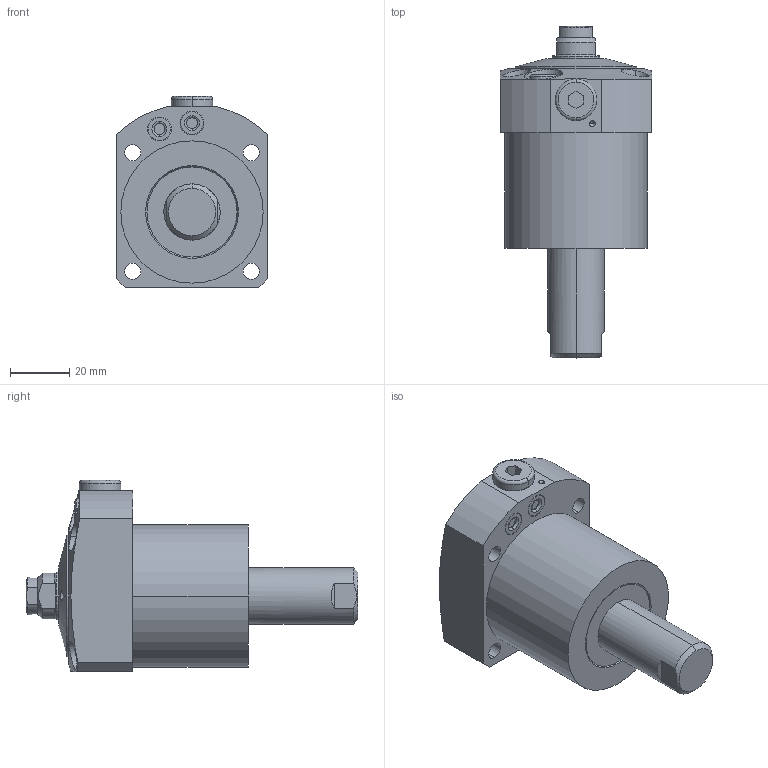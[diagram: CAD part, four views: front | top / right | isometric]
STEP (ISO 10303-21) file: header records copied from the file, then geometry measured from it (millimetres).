
FILE_DESCRIPTION(/* description */ (''),/* implementation_level */ '2;1');
FILE_NAME(/* name */ 'KFSC48-Q.stp',/* time_stamp */ '2023-01-10T13:08:26+08:00',/* author */ (''),/* organization */ (''),/* preprocessor_version */ 'ST-DEVELOPER v16.7',/* originating_system */ 'SIEMENS PLM Software NX 12.0',/* authorisation */ '');
FILE_SCHEMA (('AP203_CONFIGURATION_CONTROLLED_3D_DESIGN_OF_MECHANICAL_PARTS_AND_ASSEMBLIES_MIM_LF { 1 0 10303 403 2 1 2}'));
Length unit declared in the file: millimetre
Products named in the file (8): KFSC48-Q-3; KFSC48-Q-7; KFSC48-Q-6; KFSC48-Q-5; KFSC48-Q-1; KFSC48-Q-4; KFSC48-Q-2; LC0482-C-Q_step
Assembly tree (8 placements, depth 2):
  LC0482-C-Q_step
    KFSC48-Q-2
    KFSC48-Q-4
    KFSC48-Q-1
    KFSC48-Q-5
    KFSC48-Q-6
    KFSC48-Q-7  x2
    KFSC48-Q-3
Bounding box: 51 x 112 x 64.5 mm (x, y, z)
Volume: 143353.5 mm3; surface area: 26338.3 mm2
Topology: 8 solids, 8 shells, 218 faces, 481 edges, 298 vertices
Faces by surface type: cylinder 81, plane 67, cone 40, torus 28, sphere 2
Entity records: 6856 total; most frequent: CARTESIAN_POINT 1225, DIRECTION 1072, ORIENTED_EDGE 902, EDGE_CURVE 451, AXIS2_PLACEMENT_3D 445, VERTEX_POINT 284, EDGE_LOOP 243, CIRCLE 230
